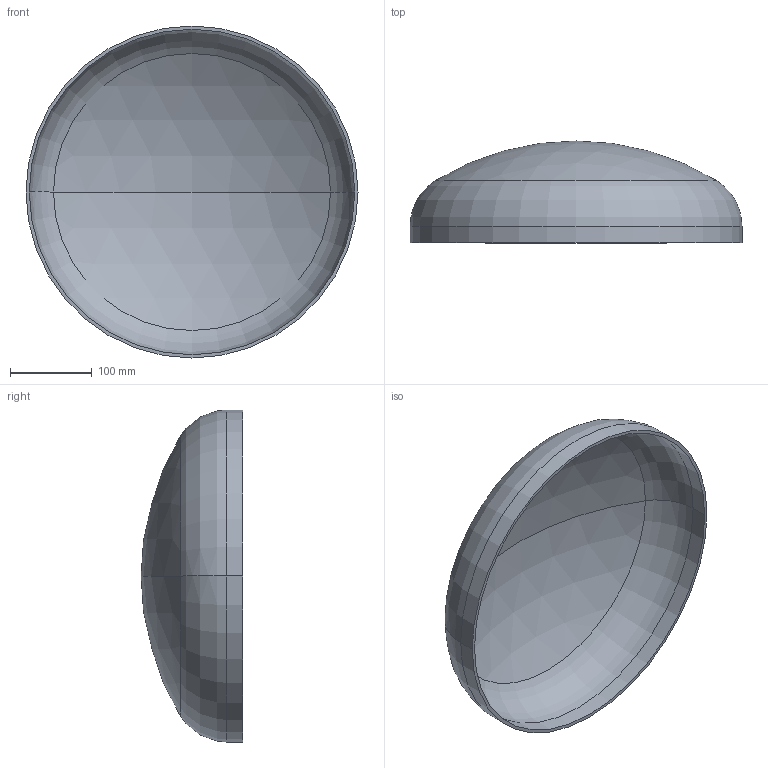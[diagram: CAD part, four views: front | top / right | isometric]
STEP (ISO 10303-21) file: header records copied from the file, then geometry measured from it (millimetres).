
FILE_DESCRIPTION (( 'STEP AP203' ), '1' );
FILE_NAME ('DIN 28013 Korbbogenform_-_Boden DIN 28013 - 406,4 x 20 - I - s=4.step', '2016-07-01T07:48:34', ( '' ), ( '' ), 'SwSTEP 2.0', 'SolidWorks 2013', '' );
FILE_SCHEMA (( 'CONFIG_CONTROL_DESIGN' ));
Length unit declared in the file: millimetre
Products named in the file (1): DIN 28013 Korbbogenform_-_Boden DIN 28013 - 406,4 x 20 - I - s=4
Bounding box: 406.4 x 124.62 x 406.4 mm (x, y, z)
Volume: 809190.2 mm3; surface area: 409685.2 mm2
Topology: 1 solids, 1 shells, 13 faces, 24 edges, 14 vertices
Faces by surface type: torus 4, cylinder 4, sphere 4, plane 1
Entity records: 407 total; most frequent: DIRECTION 72, CARTESIAN_POINT 52, ORIENTED_EDGE 48, AXIS2_PLACEMENT_3D 34, EDGE_CURVE 24, CIRCLE 20, EDGE_LOOP 14, VERTEX_POINT 14
